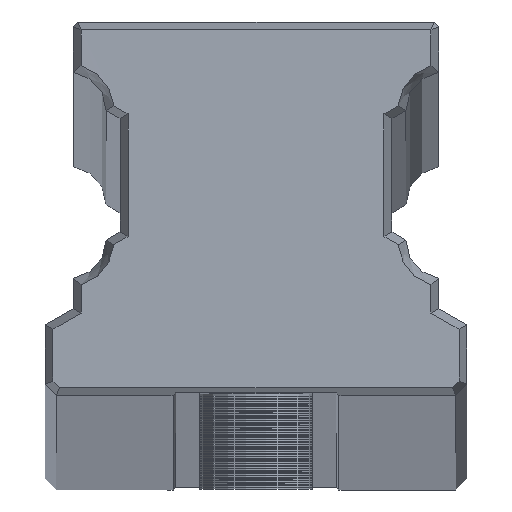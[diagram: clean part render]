
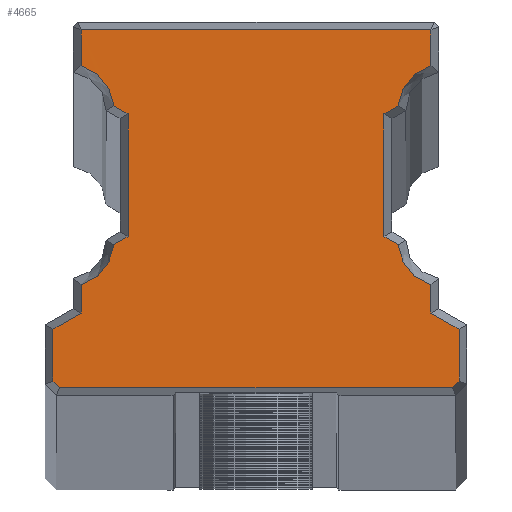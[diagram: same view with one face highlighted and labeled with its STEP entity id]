
A CAD part, top view. The second image highlights one B-rep face of the part: STEP entity #4665.
In plain terms, the highlighted planar face has unit normal (0, 0, 1).
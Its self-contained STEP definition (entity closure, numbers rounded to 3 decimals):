
#901=DIRECTION('',(1.,0.,0.));
#902=VECTOR('',#901,41.896);
#903=CARTESIAN_POINT('',(-20.948,0.85,0.));
#904=LINE('',#903,#902);
#905=DIRECTION('',(0.707,-0.707,0.));
#906=VECTOR('',#905,0.993);
#907=CARTESIAN_POINT('',(-21.65,1.552,0.));
#908=LINE('',#907,#906);
#909=DIRECTION('',(0.,-1.,0.));
#910=VECTOR('',#909,5.525);
#911=CARTESIAN_POINT('',(-21.65,7.077,0.));
#912=LINE('',#911,#910);
#913=DIRECTION('',(-0.866,-0.5,0.));
#914=VECTOR('',#913,3.464);
#915=CARTESIAN_POINT('',(-18.65,8.809,0.));
#916=LINE('',#915,#914);
#917=DIRECTION('',(0.,-1.,0.));
#918=VECTOR('',#917,3.021);
#919=CARTESIAN_POINT('',(-18.65,11.831,0.));
#920=LINE('',#919,#918);
#921=CARTESIAN_POINT('',(-20.056,16.556,0.));
#922=DIRECTION('',(0.,0.,-1.));
#923=DIRECTION('',(0.996,-0.094,0.));
#924=AXIS2_PLACEMENT_3D('',#921,#922,#923);
#926=DIRECTION('',(-0.866,-0.5,0.));
#927=VECTOR('',#926,1.729);
#928=CARTESIAN_POINT('',(-13.65,16.959,0.));
#929=LINE('',#928,#927);
#930=DIRECTION('',(0.,-1.,0.));
#931=VECTOR('',#930,13.082);
#932=CARTESIAN_POINT('',(-13.65,30.041,0.));
#933=LINE('',#932,#931);
#934=DIRECTION('',(0.866,-0.5,0.));
#935=VECTOR('',#934,1.729);
#936=CARTESIAN_POINT('',(-15.147,30.906,0.));
#937=LINE('',#936,#935);
#938=CARTESIAN_POINT('',(-20.056,30.444,0.));
#939=DIRECTION('',(0.,0.,-1.));
#940=DIRECTION('',(0.285,0.958,0.));
#941=AXIS2_PLACEMENT_3D('',#938,#939,#940);
#943=DIRECTION('',(0.,-1.,0.001));
#944=VECTOR('',#943,3.832);
#945=CARTESIAN_POINT('',(-18.651,39.001,
-0.002));
#946=LINE('',#945,#944);
#947=DIRECTION('',(-1.,0.,0.));
#948=VECTOR('',#947,37.303);
#949=CARTESIAN_POINT('',(18.651,39.001,-0.002));
#950=LINE('',#949,#948);
#951=DIRECTION('',(0.,1.,-0.001));
#952=VECTOR('',#951,3.832);
#953=CARTESIAN_POINT('',(18.65,35.169,0.));
#954=LINE('',#953,#952);
#955=CARTESIAN_POINT('',(20.056,30.444,0.));
#956=DIRECTION('',(0.,0.,-1.));
#957=DIRECTION('',(-0.996,0.094,0.));
#958=AXIS2_PLACEMENT_3D('',#955,#956,#957);
#960=DIRECTION('',(0.866,0.5,0.));
#961=VECTOR('',#960,1.729);
#962=CARTESIAN_POINT('',(13.65,30.041,0.));
#963=LINE('',#962,#961);
#964=DIRECTION('',(0.,1.,0.));
#965=VECTOR('',#964,13.082);
#966=CARTESIAN_POINT('',(13.65,16.959,0.));
#967=LINE('',#966,#965);
#968=DIRECTION('',(-0.866,0.5,0.));
#969=VECTOR('',#968,1.729);
#970=CARTESIAN_POINT('',(15.147,16.094,0.));
#971=LINE('',#970,#969);
#972=CARTESIAN_POINT('',(20.056,16.556,0.));
#973=DIRECTION('',(0.,0.,-1.));
#974=DIRECTION('',(-0.285,-0.958,0.));
#975=AXIS2_PLACEMENT_3D('',#972,#973,#974);
#977=DIRECTION('',(0.,1.,0.));
#978=VECTOR('',#977,3.021);
#979=CARTESIAN_POINT('',(18.65,8.809,0.));
#980=LINE('',#979,#978);
#981=DIRECTION('',(-0.866,0.5,0.));
#982=VECTOR('',#981,3.464);
#983=CARTESIAN_POINT('',(21.65,7.077,0.));
#984=LINE('',#983,#982);
#985=DIRECTION('',(0.,1.,0.));
#986=VECTOR('',#985,5.525);
#987=CARTESIAN_POINT('',(21.65,1.552,0.));
#988=LINE('',#987,#986);
#989=DIRECTION('',(0.707,0.707,0.));
#990=VECTOR('',#989,0.993);
#991=CARTESIAN_POINT('',(20.948,0.85,0.));
#992=LINE('',#991,#990);
#3197=CARTESIAN_POINT('',(-20.948,0.85,0.));
#3198=CARTESIAN_POINT('',(20.948,0.85,0.));
#3199=VERTEX_POINT('',#3197);
#3200=VERTEX_POINT('',#3198);
#3201=CARTESIAN_POINT('',(21.65,1.552,0.));
#3202=VERTEX_POINT('',#3201);
#3203=CARTESIAN_POINT('',(21.65,7.077,0.));
#3204=VERTEX_POINT('',#3203);
#3205=CARTESIAN_POINT('',(18.65,8.809,0.));
#3206=VERTEX_POINT('',#3205);
#3207=CARTESIAN_POINT('',(18.65,11.831,0.));
#3208=VERTEX_POINT('',#3207);
#3209=CARTESIAN_POINT('',(15.147,16.094,0.));
#3210=VERTEX_POINT('',#3209);
#3211=CARTESIAN_POINT('',(13.65,16.959,0.));
#3212=VERTEX_POINT('',#3211);
#3213=CARTESIAN_POINT('',(13.65,30.041,0.));
#3214=VERTEX_POINT('',#3213);
#3215=CARTESIAN_POINT('',(15.147,30.906,0.));
#3216=VERTEX_POINT('',#3215);
#3217=CARTESIAN_POINT('',(18.65,35.169,0.));
#3218=VERTEX_POINT('',#3217);
#3219=CARTESIAN_POINT('',(18.651,39.001,
-0.002));
#3220=VERTEX_POINT('',#3219);
#3221=CARTESIAN_POINT('',(-18.651,39.001,
-0.002));
#3222=VERTEX_POINT('',#3221);
#3223=CARTESIAN_POINT('',(-18.65,35.169,0.));
#3224=VERTEX_POINT('',#3223);
#3225=CARTESIAN_POINT('',(-15.147,30.906,0.));
#3226=VERTEX_POINT('',#3225);
#3227=CARTESIAN_POINT('',(-13.65,30.041,0.));
#3228=VERTEX_POINT('',#3227);
#3229=CARTESIAN_POINT('',(-13.65,16.959,0.));
#3230=VERTEX_POINT('',#3229);
#3231=CARTESIAN_POINT('',(-15.147,16.094,0.));
#3232=VERTEX_POINT('',#3231);
#3233=CARTESIAN_POINT('',(-18.65,11.831,0.));
#3234=VERTEX_POINT('',#3233);
#3235=CARTESIAN_POINT('',(-18.65,8.809,0.));
#3236=VERTEX_POINT('',#3235);
#3237=CARTESIAN_POINT('',(-21.65,7.077,0.));
#3238=VERTEX_POINT('',#3237);
#3239=CARTESIAN_POINT('',(-21.65,1.552,0.));
#3240=VERTEX_POINT('',#3239);
#4615=CARTESIAN_POINT('',(0.,0.,0.));
#4616=DIRECTION('',(0.,0.,1.));
#4617=DIRECTION('',(1.,0.,0.));
#4618=AXIS2_PLACEMENT_3D('',#4615,#4616,#4617);
#4619=PLANE('',#4618);
#4621=ORIENTED_EDGE('',*,*,#4620,.F.);
#4623=ORIENTED_EDGE('',*,*,#4622,.F.);
#4625=ORIENTED_EDGE('',*,*,#4624,.F.);
#4627=ORIENTED_EDGE('',*,*,#4626,.F.);
#4629=ORIENTED_EDGE('',*,*,#4628,.F.);
#4631=ORIENTED_EDGE('',*,*,#4630,.F.);
#4633=ORIENTED_EDGE('',*,*,#4632,.F.);
#4635=ORIENTED_EDGE('',*,*,#4634,.F.);
#4637=ORIENTED_EDGE('',*,*,#4636,.F.);
#4639=ORIENTED_EDGE('',*,*,#4638,.F.);
#4640=ORIENTED_EDGE('',*,*,#4605,.F.);
#4642=ORIENTED_EDGE('',*,*,#4641,.F.);
#4644=ORIENTED_EDGE('',*,*,#4643,.F.);
#4646=ORIENTED_EDGE('',*,*,#4645,.F.);
#4648=ORIENTED_EDGE('',*,*,#4647,.F.);
#4650=ORIENTED_EDGE('',*,*,#4649,.F.);
#4652=ORIENTED_EDGE('',*,*,#4651,.F.);
#4654=ORIENTED_EDGE('',*,*,#4653,.F.);
#4656=ORIENTED_EDGE('',*,*,#4655,.F.);
#4658=ORIENTED_EDGE('',*,*,#4657,.F.);
#4660=ORIENTED_EDGE('',*,*,#4659,.F.);
#4662=ORIENTED_EDGE('',*,*,#4661,.F.);
#4663=EDGE_LOOP('',(#4621,#4623,#4625,#4627,#4629,#4631,#4633,#4635,#4637,#4639,
#4640,#4642,#4644,#4646,#4648,#4650,#4652,#4654,#4656,#4658,#4660,#4662));
#4664=FACE_OUTER_BOUND('',#4663,.F.);
#925=CIRCLE('',#924,4.93);
#942=CIRCLE('',#941,4.93);
#959=CIRCLE('',#958,4.93);
#976=CIRCLE('',#975,4.93);
#4605=EDGE_CURVE('',#3222,#3224,#946,.T.);
#4620=EDGE_CURVE('',#3199,#3200,#904,.T.);
#4622=EDGE_CURVE('',#3240,#3199,#908,.T.);
#4624=EDGE_CURVE('',#3238,#3240,#912,.T.);
#4626=EDGE_CURVE('',#3236,#3238,#916,.T.);
#4628=EDGE_CURVE('',#3234,#3236,#920,.T.);
#4630=EDGE_CURVE('',#3232,#3234,#925,.T.);
#4632=EDGE_CURVE('',#3230,#3232,#929,.T.);
#4634=EDGE_CURVE('',#3228,#3230,#933,.T.);
#4636=EDGE_CURVE('',#3226,#3228,#937,.T.);
#4638=EDGE_CURVE('',#3224,#3226,#942,.T.);
#4641=EDGE_CURVE('',#3220,#3222,#950,.T.);
#4643=EDGE_CURVE('',#3218,#3220,#954,.T.);
#4645=EDGE_CURVE('',#3216,#3218,#959,.T.);
#4647=EDGE_CURVE('',#3214,#3216,#963,.T.);
#4649=EDGE_CURVE('',#3212,#3214,#967,.T.);
#4651=EDGE_CURVE('',#3210,#3212,#971,.T.);
#4653=EDGE_CURVE('',#3208,#3210,#976,.T.);
#4655=EDGE_CURVE('',#3206,#3208,#980,.T.);
#4657=EDGE_CURVE('',#3204,#3206,#984,.T.);
#4659=EDGE_CURVE('',#3202,#3204,#988,.T.);
#4661=EDGE_CURVE('',#3200,#3202,#992,.T.);
#4665=ADVANCED_FACE('',(#4664),#4619,.T.);
